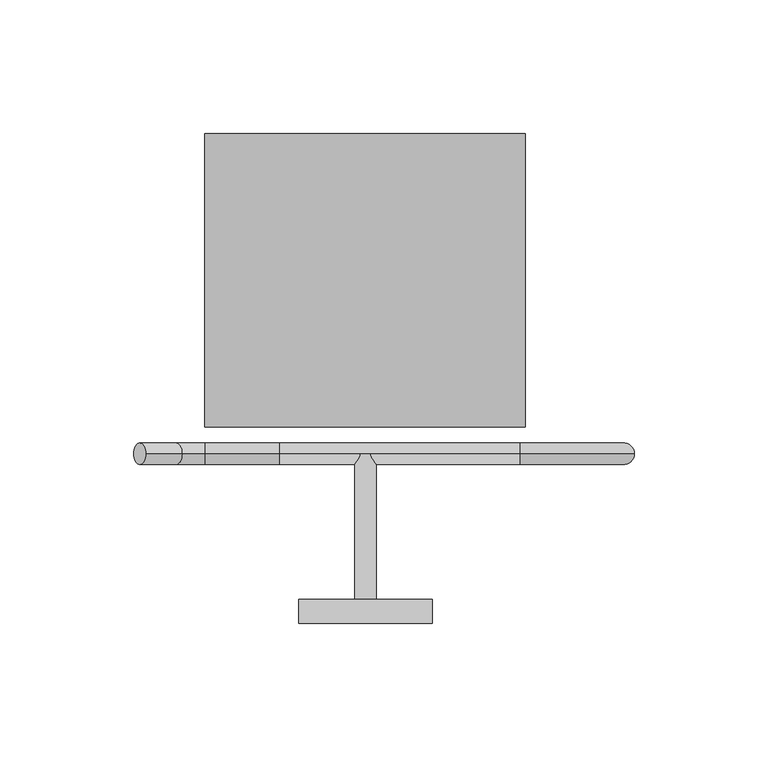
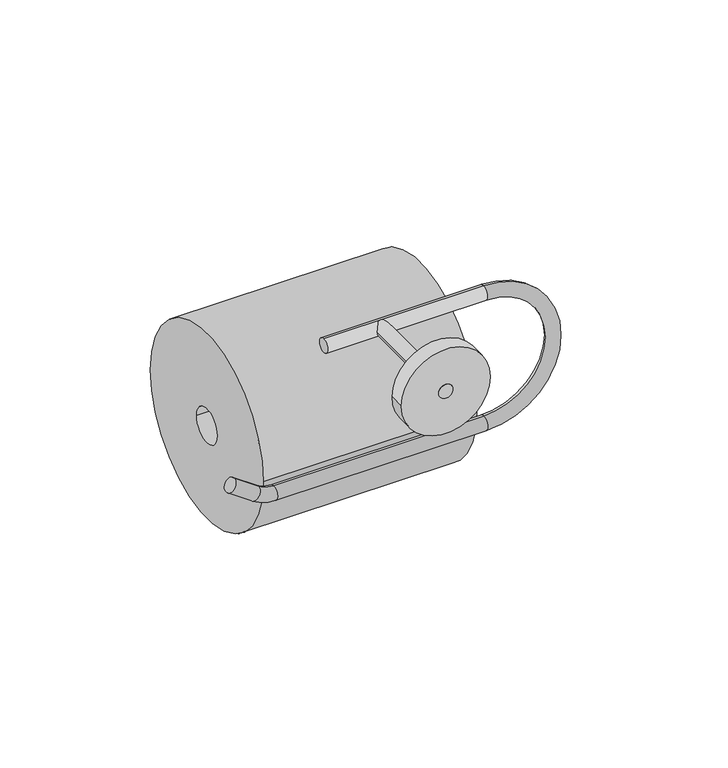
"""IFC4 building model written with IfcOpenShell, lengths in millimetres: flow terminal geometry, Portarrollo Dica 1017 : Portarrollos Dica 1017."""

import ifcopenshell
import ifcopenshell.guid

model = None  # the IFC model being written
_history = None  # IfcOwnerHistory: only IFC2X3 demands one
_inside = {}  # id of a spatial element -> (the spatial element, [elements in it])
_under = {}  # id of a project, library or spatial element -> (it, [spatial elements below it])
_declared = {}  # id of a project -> (the project, [libraries it declares])
_typed = {}  # id of a type object -> (the type object, [elements of that type])
_made_of = {}  # id of a material, layer set ... -> (it, [elements and type objects made of it])


def new_model(schema):
    """Start an empty IFC model of exactly this schema.

    Asked for "IFC4X3", IfcOpenShell would pick the latest addendum, in which some entities
    have other attributes; the version numbers below select the first issue.
    IFC2X3 requires an IfcOwnerHistory on every rooted entity: one is made here for all.
    """
    global model, _history
    if schema == "IFC4X3":
        model = ifcopenshell.file(schema_version=(4, 3, 0, 0))
    else:
        model = ifcopenshell.file(schema=schema)
    _inside.clear()
    _under.clear()
    _declared.clear()
    _typed.clear()
    _made_of.clear()
    _history = None
    if model.schema == "IFC2X3":
        org = make("IfcOrganization", Name="unknown")
        user = make(
            "IfcPersonAndOrganization",
            ThePerson=make("IfcPerson", FamilyName="unknown"),
            TheOrganization=org,
        )
        app = make(
            "IfcApplication",
            ApplicationDeveloper=org,
            Version="unknown",
            ApplicationFullName="unknown",
            ApplicationIdentifier="unknown",
        )
        _history = make(
            "IfcOwnerHistory",
            OwningUser=user,
            OwningApplication=app,
            ChangeAction="ADDED",
            CreationDate=0,
        )
    return model


def make(cls, **values):
    """One entity of the class cls with the attributes given. An attribute that is None is left unset."""
    return model.create_entity(
        cls, **{name: value for name, value in values.items() if value is not None}
    )


def rooted(cls, **values):
    """An entity with a GlobalId (a new one), such as an element, a storey or a relation."""
    return make(cls, GlobalId=ifcopenshell.guid.new(), OwnerHistory=_history, **values)


def si_unit(unit_type, name, prefix=None):
    """IfcSIUnit, for example si_unit("LENGTHUNIT", "METRE", prefix="MILLI")."""
    return make("IfcSIUnit", UnitType=unit_type, Prefix=prefix, Name=name)


def assignment(units):
    """IfcUnitAssignment: the units of a project."""
    return None if units is None else make("IfcUnitAssignment", Units=units)


def point(xyz):
    """IfcCartesianPoint."""
    return None if xyz is None else make("IfcCartesianPoint", Coordinates=xyz)


def direction(xyz):
    """IfcDirection."""
    return None if xyz is None else make("IfcDirection", DirectionRatios=xyz)


def frame(location, z_axis=None, x_axis=None):
    """IfcAxis2Placement3D, a coordinate frame: its origin and axes. An axis left out is left unset."""
    return make(
        "IfcAxis2Placement3D",
        Location=point(location),
        Axis=direction(z_axis),
        RefDirection=direction(x_axis),
    )


def frame_2d(location, x_axis=None):
    """IfcAxis2Placement2D, a coordinate frame in the plane: its origin and x axis."""
    return make(
        "IfcAxis2Placement2D", Location=point(location), RefDirection=direction(x_axis)
    )


def origin():
    """The frame at (0, 0, 0) with its axes left unset."""
    return frame((0.0, 0.0, 0.0))


def place(relative_to, where):
    """IfcLocalPlacement: puts the frame where relative to a parent placement (None: the world)."""
    return make(
        "IfcLocalPlacement", PlacementRelTo=relative_to, RelativePlacement=where
    )


def context(
    kind, dimensions, precision=None, world=None, true_north=None, identifier=None
):
    """IfcGeometricRepresentationContext, for example the 3D "Model" context."""
    return make(
        "IfcGeometricRepresentationContext",
        ContextIdentifier=identifier,
        ContextType=kind,
        CoordinateSpaceDimension=dimensions,
        Precision=precision,
        WorldCoordinateSystem=world,
        TrueNorth=true_north,
    )


def project(units=None, contexts=None):
    """IfcProject with its units and contexts."""
    return rooted(
        "IfcProject",
        Name="project",
        RepresentationContexts=contexts,
        UnitsInContext=assignment(units),
    )


def spatial(cls, under=None, at=None, **own):
    """A site, building, storey or space (cls), placed at a placement, below another one or the project."""
    s = rooted(cls, ObjectPlacement=at, **own)
    if under is not None:
        _under.setdefault(under.id(), (under, []))[1].append(s)
    return s


def circle_curve(where, radius):
    """IfcCircle in the frame where."""
    return make("IfcCircle", Position=where, Radius=radius)


def ellipse_curve(where, semi_axis1, semi_axis2):
    """IfcEllipse in the frame where."""
    return make(
        "IfcEllipse", Position=where, SemiAxis1=semi_axis1, SemiAxis2=semi_axis2
    )


def trimmed(basis, trim1, trim2, sense, master):
    """IfcTrimmedCurve: the piece of a basis curve between two trims."""
    return make(
        "IfcTrimmedCurve",
        BasisCurve=basis,
        Trim1=trim1,
        Trim2=trim2,
        SenseAgreement=sense,
        MasterRepresentation=master,
    )


def segment(curve, same_sense, transition):
    """IfcCompositeCurveSegment."""
    return make(
        "IfcCompositeCurveSegment",
        Transition=transition,
        SameSense=same_sense,
        ParentCurve=curve,
    )


def composite_curve(segments, self_intersect=None):
    """IfcCompositeCurve: segments joined end to end."""
    return make("IfcCompositeCurve", Segments=segments, SelfIntersect=self_intersect)


def outline(outer, holes=None, kind="AREA"):
    """IfcArbitraryClosedProfileDef: a profile drawn as a closed curve; with holes, ...WithVoids."""
    if holes is None:
        return make("IfcArbitraryClosedProfileDef", ProfileType=kind, OuterCurve=outer)
    return make(
        "IfcArbitraryProfileDefWithVoids",
        ProfileType=kind,
        OuterCurve=outer,
        InnerCurves=holes,
    )


def extrude(swept, where, along, depth):
    """IfcExtrudedAreaSolid: the profile swept, set in the frame where, extruded along a direction by depth."""
    return make(
        "IfcExtrudedAreaSolid",
        SweptArea=swept,
        Position=where,
        ExtrudedDirection=direction(along),
        Depth=depth,
    )


def shape(context_of_items, identifier, shape_type, items):
    """IfcShapeRepresentation: the items that make up one representation, for example the "Body"."""
    return make(
        "IfcShapeRepresentation",
        ContextOfItems=context_of_items,
        RepresentationIdentifier=identifier,
        RepresentationType=shape_type,
        Items=items,
    )


def source(mapping_origin, context_of_items, identifier, shape_type, items):
    """IfcRepresentationMap: a shape defined once, which mapped items show again and again."""
    return make(
        "IfcRepresentationMap",
        MappingOrigin=mapping_origin,
        MappedRepresentation=shape(context_of_items, identifier, shape_type, items),
    )


def transform(
    local_origin,
    x_axis=None,
    y_axis=None,
    z_axis=None,
    scale=None,
    scale2=None,
    scale3=None,
    uniform=True,
):
    """IfcCartesianTransformationOperator3D, or its non-uniform kind. x_axis, y_axis, z_axis: its Axis1, 2, 3."""
    if uniform:
        return make(
            "IfcCartesianTransformationOperator3D",
            Axis1=direction(x_axis),
            Axis2=direction(y_axis),
            LocalOrigin=point(local_origin),
            Scale=scale,
            Axis3=direction(z_axis),
        )
    return make(
        "IfcCartesianTransformationOperator3DnonUniform",
        Axis1=direction(x_axis),
        Axis2=direction(y_axis),
        LocalOrigin=point(local_origin),
        Scale=scale,
        Axis3=direction(z_axis),
        Scale2=scale2,
        Scale3=scale3,
    )


def mapped(mapping_source, mapping_target):
    """IfcMappedItem: shows the shape of a source again, moved by a transform."""
    return make(
        "IfcMappedItem", MappingSource=mapping_source, MappingTarget=mapping_target
    )


def made_of(thing, what):
    """Note that an element or type object is made of a material, layer set ...; save() writes the relation."""
    if what is not None:
        _made_of.setdefault(what.id(), (what, []))[1].append(thing)
    return thing


def element(
    cls,
    number,
    at=None,
    inside=None,
    cuts=None,
    type_object=None,
    material=None,
    context=None,
    identifier="Body",
    shape_type=None,
    held_by="IfcProductDefinitionShape",
    body=None,
    shapes=None,
    **own,
):
    """One element of the class cls, such as IfcWall. Its Tag is "e" and its number.

    at: its placement. inside: the storey or other place that contains it. cuts: it is an
    opening in that element (IfcRelVoidsElement). A single representation is given by context,
    identifier, shape_type and body (its items); several are given by shapes. held_by: the class
    of the entity that holds the representations. save() writes the other relations.
    """
    e = rooted(cls, Tag="e%d" % number, ObjectPlacement=at, **own)
    if body is not None:
        shapes = [shape(context, identifier, shape_type, body)]
    if shapes is not None:
        e.Representation = make(held_by, Representations=shapes)
    if inside is not None:
        _inside.setdefault(inside.id(), (inside, []))[1].append(e)
    if cuts is not None:
        rooted(
            "IfcRelVoidsElement", RelatingBuildingElement=cuts, RelatedOpeningElement=e
        )
    if type_object is not None:
        _typed.setdefault(type_object.id(), (type_object, []))[1].append(e)
    return made_of(e, material)


def aggregate(whole, parts):
    """IfcRelAggregates: a whole, such as a stair, and the parts it consists of."""
    return rooted("IfcRelAggregates", RelatingObject=whole, RelatedObjects=parts)


def save(model, path):
    """Write the relations noted so far, then the file.

    IfcRelAggregates (storeys below a building ...), IfcRelContainedInSpatialStructure (elements
    in a storey), IfcRelDefinesByType, IfcRelAssociatesMaterial and IfcRelDeclares: one each for
    every whole, place, type object, material and project.
    """
    for whole, parts in _under.values():
        aggregate(whole, parts)
    for where, things in _inside.values():
        rooted(
            "IfcRelContainedInSpatialStructure",
            RelatedElements=things,
            RelatingStructure=where,
        )
    for kind, things in _typed.values():
        rooted("IfcRelDefinesByType", RelatedObjects=things, RelatingType=kind)
    for what, things in _made_of.values():
        rooted("IfcRelAssociatesMaterial", RelatedObjects=things, RelatingMaterial=what)
    for by, libraries in _declared.values():
        rooted("IfcRelDeclares", RelatingContext=by, RelatedDefinitions=libraries)
    model.write(path)


def plane_surface(at):
    """IfcPlane: the flat surface through the origin of the frame at, square to its z axis."""
    return make("IfcPlane", Position=at)


def cylinder_surface(at, radius):
    """IfcCylindricalSurface: all points at the distance radius from the z axis of the frame at."""
    return make("IfcCylindricalSurface", Position=at, Radius=radius)


def revolved_surface(curve, axis_point, axis_direction):
    """IfcSurfaceOfRevolution: the curve turned about the line through axis_point along axis_direction."""
    return make(
        "IfcSurfaceOfRevolution",
        SweptCurve=make("IfcArbitraryOpenProfileDef", ProfileType="CURVE", Curve=curve),
        AxisPosition=make("IfcAxis1Placement", Location=point(axis_point), Axis=direction(axis_direction)),
    )


def advanced_brep(points, edges, surfaces, faces):
    """IfcAdvancedBrep: a solid bounded by faces that lie on surfaces and meet in shared edges.

    An edge is (start, end): straight between two places in points (the first is 0);
    or (start, end, curve); or (start, end, curve, False) where it runs against its curve.
    A face is (place in surfaces, loops), or (place, loops, False) where it looks against
    its surface's normal. A loop lists edges by number (the first is 1), with a minus sign
    where the edge is run from its end to its start. The first loop is the outer one.
    """
    corners = [point(p) for p in points]
    vertices = [make("IfcVertexPoint", VertexGeometry=c) for c in corners]
    made = []
    for start, end, *more in edges:
        made.append(
            make(
                "IfcEdgeCurve",
                EdgeStart=vertices[start],
                EdgeEnd=vertices[end],
                EdgeGeometry=more[0] if more else make("IfcPolyline", Points=[corners[start], corners[end]]),
                SameSense=more[1] if len(more) > 1 else True,
            )
        )
    hull = []
    for where, loops, *sense in faces:
        bounds = []
        for j, loop in enumerate(loops):
            ring = [make("IfcOrientedEdge", EdgeElement=made[abs(k) - 1], Orientation=k > 0) for k in loop]
            bounds.append(
                make(
                    "IfcFaceOuterBound" if j == 0 else "IfcFaceBound",
                    Bound=make("IfcEdgeLoop", EdgeList=ring),
                    Orientation=True,
                )
            )
        hull.append(make("IfcAdvancedFace", Bounds=bounds, FaceSurface=surfaces[where], SameSense=sense[0] if sense else True))
    return make("IfcAdvancedBrep", Outer=make("IfcClosedShell", CfsFaces=hull))


def flow_terminal_6c50e432(model_context):
    return source(origin(), model_context, "Body", "SolidModel", [
        extrude(outline(composite_curve([segment(trimmed(circle_curve(frame_2d((138.5, -77.2787162)), 55.0), [point((193.5, -77.2787162))], [point((83.5, -77.2787162))], False, "CARTESIAN"), True, "CONTINUOUS"), segment(trimmed(circle_curve(frame_2d((138.5, -77.2787162)), 55.0), [point((83.5, -77.2787162))], [point((193.5, -77.2787162))], False, "CARTESIAN"), True, "CONTINUOUS")], self_intersect=False), holes=[composite_curve([segment(trimmed(circle_curve(frame_2d((138.5, -77.2787162)), 10.0), [point((148.5, -77.2787162))], [point((128.5, -77.2787162))], True, "CARTESIAN"), True, "CONTINUOUS"), segment(trimmed(circle_curve(frame_2d((138.5, -77.2787162)), 10.0), [point((128.5, -77.2787162))], [point((148.5, -77.2787162))], True, "CARTESIAN"), True, "CONTINUOUS")], self_intersect=False)]), frame((64.9375, 0.0, 0.0), z_axis=(1.0, 0.0, 0.0), x_axis=(0.0, 1.0, 0.0)), (0.0, 0.0, 1.0), 120.0),
        extrude(outline(composite_curve([segment(trimmed(circle_curve(frame_2d((0.0, 125.0)), 4.0), [point((0.0, 121.0))], [point((0.0, 129.0))], False, "CARTESIAN"), True, "CONTINUOUS"), segment(trimmed(circle_curve(frame_2d((0.0, 125.0)), 4.0), [point((0.0, 129.0))], [point((0.0, 121.0))], False, "CARTESIAN"), True, "CONTINUOUS")], self_intersect=False)), frame((0.0, 10.0, 0.0), z_axis=(0.0, 1.0, 0.0), x_axis=(0.0, 0.0, 1.0)), (0.0, 0.0, 1.0), 63.3830496),
        extrude(outline(composite_curve([segment(trimmed(circle_curve(frame_2d((0.0, 125.0)), 25.0), [point((0.0, 100.0))], [point((0.0, 150.0))], False, "CARTESIAN"), True, "CONTINUOUS"), segment(trimmed(circle_curve(frame_2d((0.0, 125.0)), 25.0), [point((0.0, 150.0))], [point((0.0, 100.0))], False, "CARTESIAN"), True, "CONTINUOUS")], self_intersect=False)), frame((0.0, 10.0, 0.0), z_axis=(0.0, 1.0, 0.0), x_axis=(0.0, 0.0, 1.0)), (0.0, 0.0, 1.0), 8.9918697),
        advanced_brep(
        [(38.2124764, 73.5, -67.8712806), (42.8010879, 73.5, -61.3180642), (51.7841808, 73.5, -77.3742904), (56.3727923, 73.5, -70.821074), (64.8692601, 73.5, -73.5), (64.8692601, 73.5, -81.5), (182.9954104, 73.5, -81.5), (182.9954104, 73.5, -73.5), (182.9954104, 73.5, -4.0), (182.9954104, 73.5, 4.0), (92.9954104, 73.5, 4.0), (92.9954104, 73.5, -4.0)],
        [
            (0, 1, circle_curve(frame((40.5067821, 73.5, -64.5946724), z_axis=(-0.8191520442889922, 0.0, 0.5735764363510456), x_axis=(0.5735764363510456, 0.0, 0.8191520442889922)), 4.0)),
            (1, 0, circle_curve(frame((40.5067821, 73.5, -64.5946724), z_axis=(-0.8191520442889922, 0.0, 0.5735764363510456), x_axis=(0.5735764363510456, 0.0, 0.8191520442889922)), 4.0)),
            (0, 2),
            (2, 3, circle_curve(frame((54.0784866, 73.5, -74.0976822), z_axis=(-0.8191520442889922, 0.0, 0.5735764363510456), x_axis=(0.5735764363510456, 0.0, 0.8191520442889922)), 4.0)),
            (3, 1),
            (3, 2, circle_curve(frame((54.0784866, 73.5, -74.0976822), z_axis=(-0.8191520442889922, 0.0, 0.5735764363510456), x_axis=(0.5735764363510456, 0.0, 0.8191520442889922)), 4.0)),
            (4, 3, circle_curve(frame((64.8692601, 73.5, -58.6868605), z_axis=(0.0, 1.0, 0.0), x_axis=(-0.5735764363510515, 0.0, -0.819152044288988)), 14.8131395)),
            (2, 5, circle_curve(frame((64.8692601, 73.5, -58.6868605), z_axis=(0.0, -1.0, 0.0), x_axis=(-0.5735764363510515, 0.0, -0.819152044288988)), 22.8131395)),
            (5, 4, circle_curve(frame((64.8692601, 73.5, -77.5), z_axis=(-1.0, 0.0, 0.0), x_axis=(0.0, 0.0, 1.0)), 4.0)),
            (4, 5, circle_curve(frame((64.8692601, 73.5, -77.5), z_axis=(-1.0, 0.0, 0.0), x_axis=(0.0, 0.0, 1.0)), 4.0)),
            (5, 6),
            (6, 7, circle_curve(frame((182.9954104, 73.5, -77.5), z_axis=(-1.0, 0.0, 0.0), x_axis=(0.0, 0.0, 1.0)), 4.0)),
            (7, 4),
            (7, 6, circle_curve(frame((182.9954104, 73.5, -77.5), z_axis=(-1.0, 0.0, 0.0), x_axis=(0.0, 0.0, 1.0)), 4.0)),
            (8, 7, circle_curve(frame((182.9954104, 73.5, -38.75), z_axis=(0.0, 1.0, 0.0), x_axis=(0.0, 0.0, -1.0)), 34.75)),
            (6, 9, circle_curve(frame((182.9954104, 73.5, -38.75), z_axis=(0.0, -1.0, 0.0), x_axis=(0.0, 0.0, -1.0)), 42.75)),
            (9, 8, circle_curve(frame((182.9954104, 73.5, 0.0), z_axis=(1.0, 0.0, 0.0), x_axis=(0.0, 0.0, -1.0)), 4.0)),
            (8, 9, circle_curve(frame((182.9954104, 73.5, 0.0), z_axis=(1.0, 0.0, 0.0), x_axis=(0.0, 0.0, -1.0)), 4.0)),
            (10, 11, circle_curve(frame((92.9954104, 73.5, 0.0), z_axis=(-1.0, 0.0, 0.0), x_axis=(0.0, 0.0, -1.0)), 4.0)),
            (11, 10, circle_curve(frame((92.9954104, 73.5, 0.0), z_axis=(-1.0, 0.0, 0.0), x_axis=(0.0, 0.0, -1.0)), 4.0)),
            (9, 10),
            (11, 8),
        ],
        [
            plane_surface(frame((40.5067821, 10.0, -64.5946724), z_axis=(-0.8191520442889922, 0.0, 0.5735764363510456), x_axis=(0.0, -1.0, 0.0))),
            cylinder_surface(frame((40.5067821, 73.5, -64.5946724), z_axis=(-0.8191520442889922, 0.0, 0.5735764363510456), x_axis=(0.5735764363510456, 0.0, 0.8191520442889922)), 4.0),
            revolved_surface(trimmed(ellipse_curve(frame((54.0784866, 73.5, -74.0976822), z_axis=(-0.8191520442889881, 0.0, 0.5735764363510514), x_axis=(0.5735764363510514, 0.0, 0.8191520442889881)), 4.0, 4.0), [point((51.7841808, 73.5, -77.3742904))], [point((56.3727923, 73.5, -70.821074))], True, "CARTESIAN"), (64.8692601, 10.0, -58.6868605), (0.0, -1.0, 0.0)),
            revolved_surface(trimmed(ellipse_curve(frame((54.0784866, 73.5, -74.0976822), z_axis=(-0.8191520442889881, 0.0, 0.5735764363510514), x_axis=(0.5735764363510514, 0.0, 0.8191520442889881)), 4.0, 4.0), [point((56.3727923, 73.5, -70.821074))], [point((51.7841808, 73.5, -77.3742904))], True, "CARTESIAN"), (64.8692601, 10.0, -58.6868605), (0.0, -1.0, 0.0)),
            cylinder_surface(frame((64.8692601, 73.5, -77.5), z_axis=(-1.0, 0.0, 0.0), x_axis=(0.0, 0.0, 1.0)), 4.0),
            revolved_surface(trimmed(ellipse_curve(frame((182.9954104, 73.5, -77.5), z_axis=(-1.0, 0.0, 0.0), x_axis=(0.0, 0.0, 1.0)), 4.0, 4.0), [point((182.9954104, 73.5, -81.5))], [point((182.9954104, 73.5, -73.5))], True, "CARTESIAN"), (182.9954104, 10.0, -38.75), (0.0, -1.0, 0.0)),
            revolved_surface(trimmed(ellipse_curve(frame((182.9954104, 73.5, -77.5), z_axis=(-1.0, 0.0, 0.0), x_axis=(0.0, 0.0, 1.0)), 4.0, 4.0), [point((182.9954104, 73.5, -73.5))], [point((182.9954104, 73.5, -81.5))], True, "CARTESIAN"), (182.9954104, 10.0, -38.75), (0.0, -1.0, 0.0)),
            plane_surface(frame((92.9954104, 10.0, 0.0), z_axis=(-1.0, 0.0, 0.0), x_axis=(0.0, -1.0, 0.0))),
            cylinder_surface(frame((182.9954104, 73.5, 0.0), z_axis=(1.0, 0.0, 0.0), x_axis=(0.0, 0.0, -1.0)), 4.0),
        ],
        [
            (0, [[1, 2]]),
            (1, [[-1, 3, 4, 5]]),
            (1, [[-2, -5, 6, -3]]),
            (2, [[7, -4, 8, 9]]),
            (3, [[-8, -6, -7, 10]]),
            (4, [[-9, 11, 12, 13]]),
            (4, [[-10, -13, 14, -11]]),
            (5, [[15, -12, 16, 17]]),
            (6, [[-16, -14, -15, 18]]),
            (7, [[19, 20]]),
            (8, [[-17, 21, -20, 22]]),
            (8, [[-18, -22, -19, -21]]),
        ],
    ),
    ])


if __name__ == "__main__":
    model = new_model("IFC4")
    model_context = context("Model", 3, world=origin())
    ifc_project = project(units=[si_unit("LENGTHUNIT", "METRE", prefix="MILLI")], contexts=[model_context])
    site = spatial("IfcSite", under=ifc_project)
    building = spatial("IfcBuilding", under=site)
    placement = place(None, origin())
    flow_terminal_shape = flow_terminal_6c50e432(model_context)
    element("IfcFlowTerminal", 1, ObjectType="Portarrollo Dica 1017 : Portarrollos Dica 1017", at=placement, inside=building, context=model_context, shape_type="MappedRepresentation", body=[
        mapped(flow_terminal_shape, transform((0.0, 0.0, 0.0), x_axis=(1.0, 0.0, 0.0), y_axis=(0.0, 1.0, 0.0), z_axis=(0.0, 0.0, 1.0))),
    ])
    save(model, "model.ifc")
